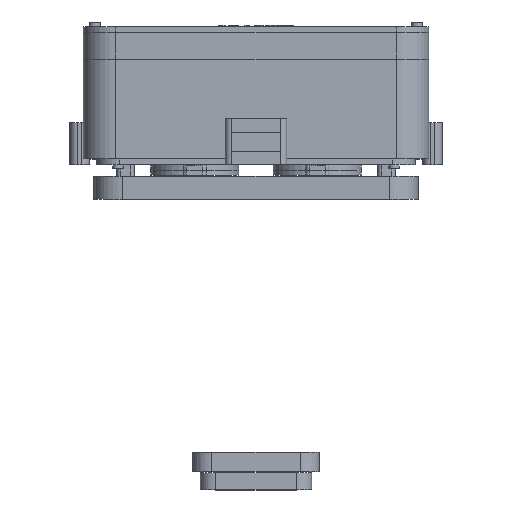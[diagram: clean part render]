
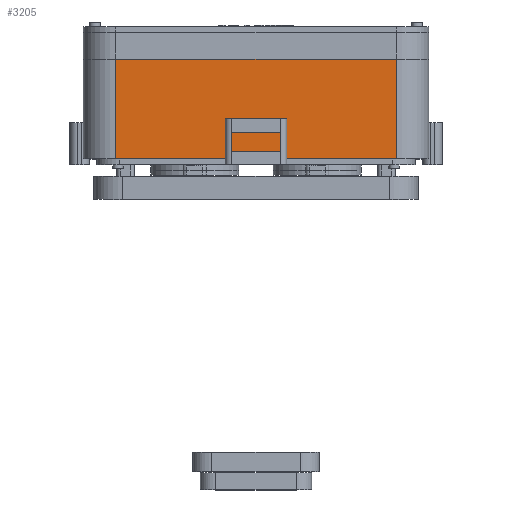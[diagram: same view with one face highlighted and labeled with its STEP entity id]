
A CAD part, top view. The second image highlights one B-rep face of the part: STEP entity #3205.
In plain terms, the highlighted planar face has unit normal (0, 0, 1).
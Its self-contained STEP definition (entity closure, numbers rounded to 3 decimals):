
#358 = PLANE('',#359);
#359 = AXIS2_PLACEMENT_3D('',#360,#361,#362);
#360 = CARTESIAN_POINT('',(-90.,-9.,16.));
#361 = DIRECTION('',(0.,1.,0.));
#362 = DIRECTION('',(0.,0.,1.));
#414 = PLANE('',#415);
#415 = AXIS2_PLACEMENT_3D('',#416,#417,#418);
#416 = CARTESIAN_POINT('',(-90.,43.,16.));
#417 = DIRECTION('',(0.,1.,0.));
#418 = DIRECTION('',(0.,0.,1.));
#440 = CYLINDRICAL_SURFACE('',#441,17.);
#441 = AXIS2_PLACEMENT_3D('',#442,#443,#444);
#442 = CARTESIAN_POINT('',(-73.,-9.,97.));
#443 = DIRECTION('',(0.,1.,0.));
#444 = DIRECTION('',(-1.,0.,0.));
#513 = VERTEX_POINT('',#514);
#514 = CARTESIAN_POINT('',(-73.,-9.,114.));
#536 = EDGE_CURVE('',#513,#537,#539,.T.);
#537 = VERTEX_POINT('',#538);
#538 = CARTESIAN_POINT('',(73.,-9.,114.));
#539 = SURFACE_CURVE('',#540,(#544,#551),.PCURVE_S1.);
#540 = LINE('',#541,#542);
#541 = CARTESIAN_POINT('',(-90.,-9.,114.));
#542 = VECTOR('',#543,1.);
#543 = DIRECTION('',(1.,0.,0.));
#544 = PCURVE('',#358,#545);
#545 = DEFINITIONAL_REPRESENTATION('',(#546),#550);
#546 = LINE('',#547,#548);
#547 = CARTESIAN_POINT('',(98.,0.));
#548 = VECTOR('',#549,1.);
#549 = DIRECTION('',(0.,1.));
#550 = ( GEOMETRIC_REPRESENTATION_CONTEXT(2) 
PARAMETRIC_REPRESENTATION_CONTEXT() REPRESENTATION_CONTEXT('2D SPACE',''
  ) );
#551 = PCURVE('',#552,#557);
#552 = PLANE('',#553);
#553 = AXIS2_PLACEMENT_3D('',#554,#555,#556);
#554 = CARTESIAN_POINT('',(-90.,-9.,114.));
#555 = DIRECTION('',(0.,0.,1.));
#556 = DIRECTION('',(1.,0.,0.));
#557 = DEFINITIONAL_REPRESENTATION('',(#558),#562);
#558 = LINE('',#559,#560);
#559 = CARTESIAN_POINT('',(0.,0.));
#560 = VECTOR('',#561,1.);
#561 = DIRECTION('',(1.,0.));
#562 = ( GEOMETRIC_REPRESENTATION_CONTEXT(2) 
PARAMETRIC_REPRESENTATION_CONTEXT() REPRESENTATION_CONTEXT('2D SPACE',''
  ) );
#585 = CYLINDRICAL_SURFACE('',#586,17.);
#586 = AXIS2_PLACEMENT_3D('',#587,#588,#589);
#587 = CARTESIAN_POINT('',(73.,-9.,97.));
#588 = DIRECTION('',(0.,1.,0.));
#589 = DIRECTION('',(1.,0.,0.));
#1032 = EDGE_CURVE('',#513,#1033,#1035,.T.);
#1033 = VERTEX_POINT('',#1034);
#1034 = CARTESIAN_POINT('',(-73.,43.,114.));
#1035 = SURFACE_CURVE('',#1036,(#1040,#1047),.PCURVE_S1.);
#1036 = LINE('',#1037,#1038);
#1037 = CARTESIAN_POINT('',(-73.,-9.,114.));
#1038 = VECTOR('',#1039,1.);
#1039 = DIRECTION('',(0.,1.,0.));
#1040 = PCURVE('',#440,#1041);
#1041 = DEFINITIONAL_REPRESENTATION('',(#1042),#1046);
#1042 = LINE('',#1043,#1044);
#1043 = CARTESIAN_POINT('',(1.571,0.));
#1044 = VECTOR('',#1045,1.);
#1045 = DIRECTION('',(0.,1.));
#1046 = ( GEOMETRIC_REPRESENTATION_CONTEXT(2) 
PARAMETRIC_REPRESENTATION_CONTEXT() REPRESENTATION_CONTEXT('2D SPACE',''
  ) );
#1047 = PCURVE('',#552,#1048);
#1048 = DEFINITIONAL_REPRESENTATION('',(#1049),#1053);
#1049 = LINE('',#1050,#1051);
#1050 = CARTESIAN_POINT('',(17.,0.));
#1051 = VECTOR('',#1052,1.);
#1052 = DIRECTION('',(0.,1.));
#1053 = ( GEOMETRIC_REPRESENTATION_CONTEXT(2) 
PARAMETRIC_REPRESENTATION_CONTEXT() REPRESENTATION_CONTEXT('2D SPACE',''
  ) );
#1107 = EDGE_CURVE('',#1033,#1108,#1110,.T.);
#1108 = VERTEX_POINT('',#1109);
#1109 = CARTESIAN_POINT('',(73.,43.,114.));
#1110 = SURFACE_CURVE('',#1111,(#1115,#1122),.PCURVE_S1.);
#1111 = LINE('',#1112,#1113);
#1112 = CARTESIAN_POINT('',(-90.,43.,114.));
#1113 = VECTOR('',#1114,1.);
#1114 = DIRECTION('',(1.,0.,0.));
#1115 = PCURVE('',#414,#1116);
#1116 = DEFINITIONAL_REPRESENTATION('',(#1117),#1121);
#1117 = LINE('',#1118,#1119);
#1118 = CARTESIAN_POINT('',(98.,0.));
#1119 = VECTOR('',#1120,1.);
#1120 = DIRECTION('',(0.,1.));
#1121 = ( GEOMETRIC_REPRESENTATION_CONTEXT(2) 
PARAMETRIC_REPRESENTATION_CONTEXT() REPRESENTATION_CONTEXT('2D SPACE',''
  ) );
#1122 = PCURVE('',#552,#1123);
#1123 = DEFINITIONAL_REPRESENTATION('',(#1124),#1128);
#1124 = LINE('',#1125,#1126);
#1125 = CARTESIAN_POINT('',(0.,52.));
#1126 = VECTOR('',#1127,1.);
#1127 = DIRECTION('',(1.,0.));
#1128 = ( GEOMETRIC_REPRESENTATION_CONTEXT(2) 
PARAMETRIC_REPRESENTATION_CONTEXT() REPRESENTATION_CONTEXT('2D SPACE',''
  ) );
#3183 = EDGE_CURVE('',#537,#1108,#3184,.T.);
#3184 = SURFACE_CURVE('',#3185,(#3189,#3196),.PCURVE_S1.);
#3185 = LINE('',#3186,#3187);
#3186 = CARTESIAN_POINT('',(73.,-9.,114.));
#3187 = VECTOR('',#3188,1.);
#3188 = DIRECTION('',(0.,1.,0.));
#3189 = PCURVE('',#585,#3190);
#3190 = DEFINITIONAL_REPRESENTATION('',(#3191),#3195);
#3191 = LINE('',#3192,#3193);
#3192 = CARTESIAN_POINT('',(-1.571,0.));
#3193 = VECTOR('',#3194,1.);
#3194 = DIRECTION('',(-0.,1.));
#3195 = ( GEOMETRIC_REPRESENTATION_CONTEXT(2) 
PARAMETRIC_REPRESENTATION_CONTEXT() REPRESENTATION_CONTEXT('2D SPACE',''
  ) );
#3196 = PCURVE('',#552,#3197);
#3197 = DEFINITIONAL_REPRESENTATION('',(#3198),#3202);
#3198 = LINE('',#3199,#3200);
#3199 = CARTESIAN_POINT('',(163.,0.));
#3200 = VECTOR('',#3201,1.);
#3201 = DIRECTION('',(0.,1.));
#3202 = ( GEOMETRIC_REPRESENTATION_CONTEXT(2) 
PARAMETRIC_REPRESENTATION_CONTEXT() REPRESENTATION_CONTEXT('2D SPACE',''
  ) );
#3205 = ADVANCED_FACE('',(#3206),#552,.T.);
#3206 = FACE_BOUND('',#3207,.T.);
#3207 = EDGE_LOOP('',(#3208,#3209,#3210,#3211));
#3208 = ORIENTED_EDGE('',*,*,#1107,.F.);
#3209 = ORIENTED_EDGE('',*,*,#1032,.F.);
#3210 = ORIENTED_EDGE('',*,*,#536,.T.);
#3211 = ORIENTED_EDGE('',*,*,#3183,.T.);
